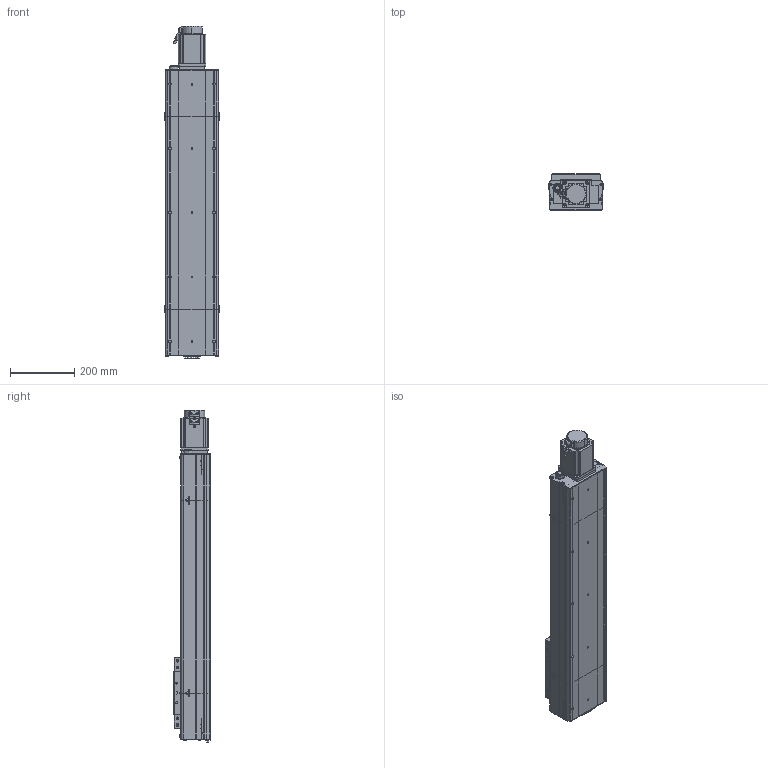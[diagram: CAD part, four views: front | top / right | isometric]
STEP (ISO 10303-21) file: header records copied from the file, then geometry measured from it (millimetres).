
FILE_DESCRIPTION (( 'STEP AP214' ), '1' );
FILE_NAME ('D17 CSH MD S600.STEP', '2010-06-29T14:07:04', ( 'Christophe Gaillard' ), ( 'SGA' ), 'SwSTEP 2.0', 'SolidWorks 2010', '' );
FILE_SCHEMA (( 'AUTOMOTIVE_DESIGN' ));
Length unit declared in the file: millimetre
Products named in the file (25): couvercle D17-600_Default; D17 CSH MD S600; Corp Head D17 MD_Default; plaque de serrage D17 head_Default; codeur 90BLDC100-640; Conecteur2_Default; Plaque de bout D17 head_Default; Head D17 MD_Default; avant 90BLDC100A-640; Moteur motionking 90BLDC100A-640; corps 90BLDC100A-640; Corp D17 S600_Default; Conecteur_Default; couvercle D17 head_Default; Corp L600_Default; couvercle D17_Default; glissiere_Default; support chariot D17_Default; plaque de serrage D17_Default; Corp Tail D17_Default; Tail D17_Default; vis M5 L15_Default; Chariot D17_Default; chariot D17_Default; Plaque de bout D17_Default
Assembly tree (44 placements, depth 4):
  D17 CSH MD S600
    Corp D17 S600_Default
      Corp L600_Default
      couvercle D17-600_Default
    Chariot D17_Default
      vis M5 L15_Default  x8
      chariot D17_Default
      support chariot D17_Default
      glissiere_Default
    Head D17 MD_Default
      vis M5 L15_Default  x7
      Corp Head D17 MD_Default
      couvercle D17 head_Default
      plaque de serrage D17 head_Default
      Plaque de bout D17 head_Default
      Moteur motionking 90BLDC100A-640
        codeur 90BLDC100-640
        Conecteur_Default
        avant 90BLDC100A-640
        Conecteur2_Default
        corps 90BLDC100A-640
    Tail D17_Default
      vis M5 L15_Default  x6
      couvercle D17_Default
      Corp Tail D17_Default
      plaque de serrage D17_Default
      Plaque de bout D17_Default
Bounding box: 172 x 114 x 1033 mm (x, y, z)
Volume: 6858315.8 mm3; surface area: 1237039.8 mm2
Topology: 81 solids, 81 shells, 2959 faces, 7502 edges, 4920 vertices
Faces by surface type: plane 1794, bspline 710, cylinder 360, torus 53, cone 42
Entity records: 143163 total; most frequent: CARTESIAN_POINT 78275, ORIENTED_EDGE 13000, DIRECTION 9226, EDGE_CURVE 6500, VECTOR 4444, LINE 4444, VERTEX_POINT 4320, EDGE_LOOP 2738
